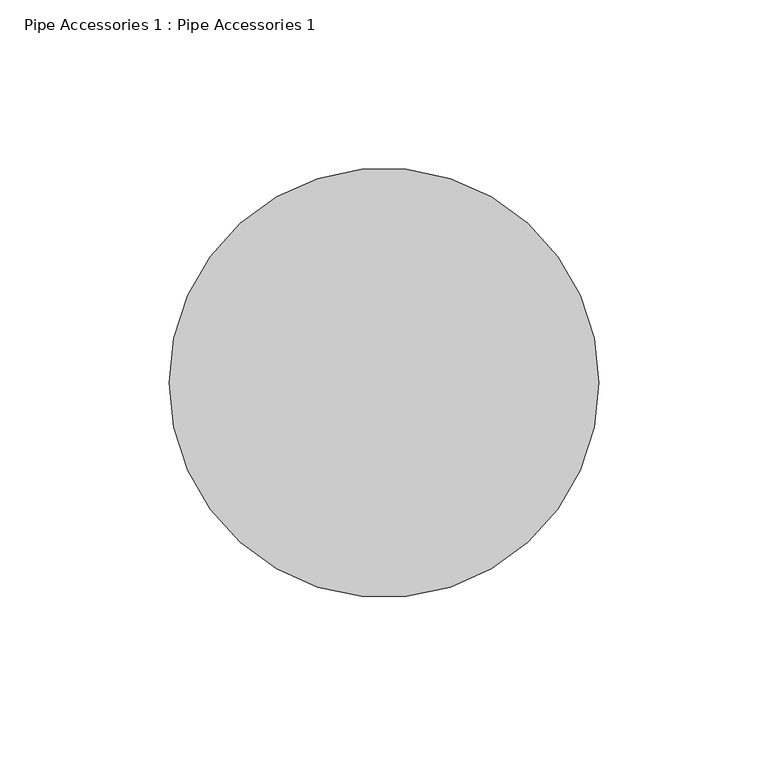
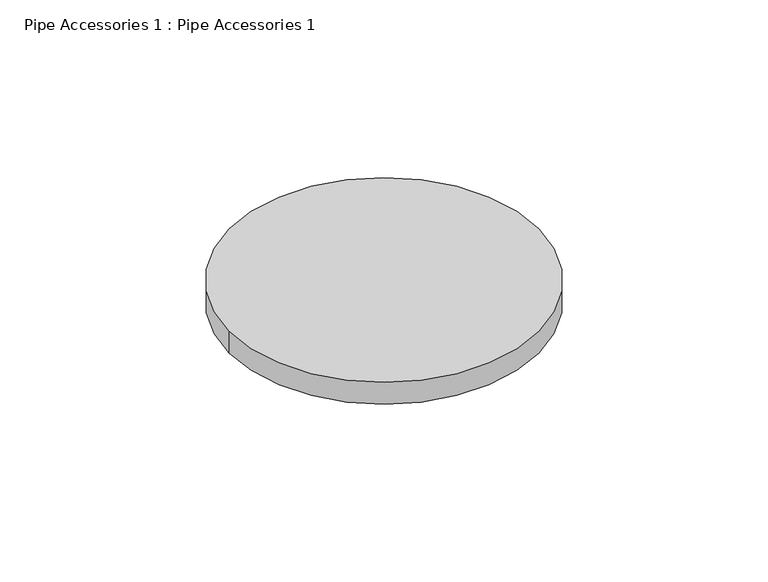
"""IFC4 building model written with IfcOpenShell, lengths in millimetres: valve geometry, Pipe Accessories 1 : Pipe Accessories 1."""

from ifc_helpers import new_model, si_unit, point, frame, frame_2d, origin, place, context, project, spatial, circle_curve, trimmed, segment, composite_curve, outline, extrude, source, transform, mapped, element, save


def pipe_accessories_1_pipe_accessories_1_fcb048ba(model_context):
    return source(origin(), model_context, "Body", "SweptSolid", [
        extrude(outline(composite_curve([segment(trimmed(circle_curve(frame_2d((2368.9680289, 2040.2688308)), 63.5), [point((2305.4680289, 2040.2688308))], [point((2432.4680289, 2040.2688308))], False, "CARTESIAN"), True, "CONTINUOUS"), segment(trimmed(circle_curve(frame_2d((2368.9680289, 2040.2688308)), 63.5), [point((2432.4680289, 2040.2688308))], [point((2305.4680289, 2040.2688308))], False, "CARTESIAN"), True, "CONTINUOUS")], self_intersect=False)), frame((0.0, 0.0, 322.0891676), z_axis=(0.0, 0.0, 1.0), x_axis=(1.0, 0.0, 0.0)), (0.0, 0.0, 1.0), 9.525),
    ])


if __name__ == "__main__":
    model = new_model("IFC4")
    model_context = context("Model", 3, world=origin())
    ifc_project = project(units=[si_unit("LENGTHUNIT", "METRE", prefix="MILLI")], contexts=[model_context])
    site = spatial("IfcSite", under=ifc_project)
    building = spatial("IfcBuilding", under=site)
    placement = place(None, origin())
    pipe_accessories_1_pipe_accessories_1_shape = pipe_accessories_1_pipe_accessories_1_fcb048ba(model_context)
    element("IfcValve", 1, ObjectType="Pipe Accessories 1 : Pipe Accessories 1", at=placement, inside=building, context=model_context, shape_type="MappedRepresentation", body=[
        mapped(pipe_accessories_1_pipe_accessories_1_shape, transform((0.0, 0.0, 0.0), x_axis=(1.0, 0.0, 0.0), y_axis=(0.0, 1.0, 0.0), z_axis=(0.0, 0.0, 1.0))),
    ])
    save(model, "model.ifc")
